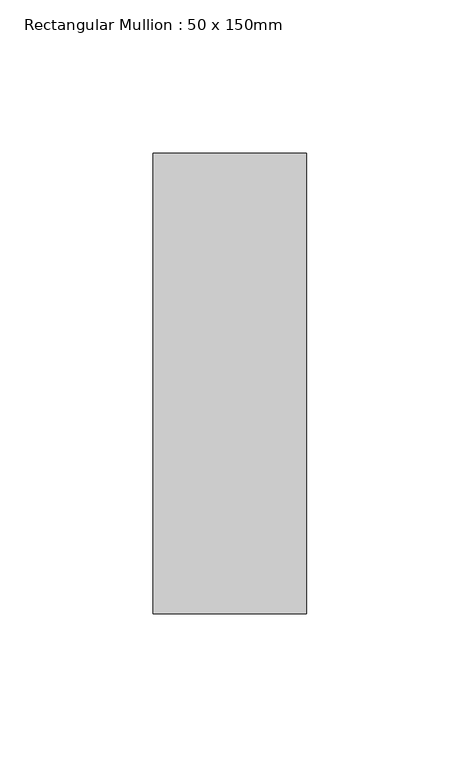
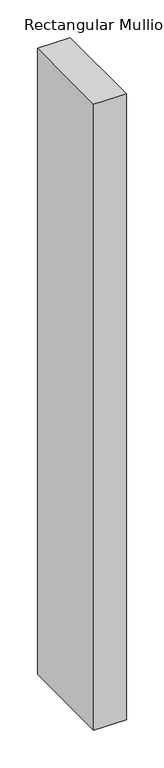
"""IFC4 building model written with IfcOpenShell, lengths in millimetres: member geometry, Rectangular Mullion : 50 x 150mm."""

import ifcopenshell
import ifcopenshell.guid

model = None  # the IFC model being written
_history = None  # IfcOwnerHistory: only IFC2X3 demands one
_inside = {}  # id of a spatial element -> (the spatial element, [elements in it])
_under = {}  # id of a project, library or spatial element -> (it, [spatial elements below it])
_declared = {}  # id of a project -> (the project, [libraries it declares])
_typed = {}  # id of a type object -> (the type object, [elements of that type])
_made_of = {}  # id of a material, layer set ... -> (it, [elements and type objects made of it])


def new_model(schema):
    """Start an empty IFC model of exactly this schema.

    Asked for "IFC4X3", IfcOpenShell would pick the latest addendum, in which some entities
    have other attributes; the version numbers below select the first issue.
    IFC2X3 requires an IfcOwnerHistory on every rooted entity: one is made here for all.
    """
    global model, _history
    if schema == "IFC4X3":
        model = ifcopenshell.file(schema_version=(4, 3, 0, 0))
    else:
        model = ifcopenshell.file(schema=schema)
    _inside.clear()
    _under.clear()
    _declared.clear()
    _typed.clear()
    _made_of.clear()
    _history = None
    if model.schema == "IFC2X3":
        org = make("IfcOrganization", Name="unknown")
        user = make(
            "IfcPersonAndOrganization",
            ThePerson=make("IfcPerson", FamilyName="unknown"),
            TheOrganization=org,
        )
        app = make(
            "IfcApplication",
            ApplicationDeveloper=org,
            Version="unknown",
            ApplicationFullName="unknown",
            ApplicationIdentifier="unknown",
        )
        _history = make(
            "IfcOwnerHistory",
            OwningUser=user,
            OwningApplication=app,
            ChangeAction="ADDED",
            CreationDate=0,
        )
    return model


def make(cls, **values):
    """One entity of the class cls with the attributes given. An attribute that is None is left unset."""
    return model.create_entity(
        cls, **{name: value for name, value in values.items() if value is not None}
    )


def rooted(cls, **values):
    """An entity with a GlobalId (a new one), such as an element, a storey or a relation."""
    return make(cls, GlobalId=ifcopenshell.guid.new(), OwnerHistory=_history, **values)


def si_unit(unit_type, name, prefix=None):
    """IfcSIUnit, for example si_unit("LENGTHUNIT", "METRE", prefix="MILLI")."""
    return make("IfcSIUnit", UnitType=unit_type, Prefix=prefix, Name=name)


def assignment(units):
    """IfcUnitAssignment: the units of a project."""
    return None if units is None else make("IfcUnitAssignment", Units=units)


def point(xyz):
    """IfcCartesianPoint."""
    return None if xyz is None else make("IfcCartesianPoint", Coordinates=xyz)


def direction(xyz):
    """IfcDirection."""
    return None if xyz is None else make("IfcDirection", DirectionRatios=xyz)


def frame(location, z_axis=None, x_axis=None):
    """IfcAxis2Placement3D, a coordinate frame: its origin and axes. An axis left out is left unset."""
    return make(
        "IfcAxis2Placement3D",
        Location=point(location),
        Axis=direction(z_axis),
        RefDirection=direction(x_axis),
    )


def origin():
    """The frame at (0, 0, 0) with its axes left unset."""
    return frame((0.0, 0.0, 0.0))


def place(relative_to, where):
    """IfcLocalPlacement: puts the frame where relative to a parent placement (None: the world)."""
    return make(
        "IfcLocalPlacement", PlacementRelTo=relative_to, RelativePlacement=where
    )


def context(
    kind, dimensions, precision=None, world=None, true_north=None, identifier=None
):
    """IfcGeometricRepresentationContext, for example the 3D "Model" context."""
    return make(
        "IfcGeometricRepresentationContext",
        ContextIdentifier=identifier,
        ContextType=kind,
        CoordinateSpaceDimension=dimensions,
        Precision=precision,
        WorldCoordinateSystem=world,
        TrueNorth=true_north,
    )


def project(units=None, contexts=None):
    """IfcProject with its units and contexts."""
    return rooted(
        "IfcProject",
        Name="project",
        RepresentationContexts=contexts,
        UnitsInContext=assignment(units),
    )


def spatial(cls, under=None, at=None, **own):
    """A site, building, storey or space (cls), placed at a placement, below another one or the project."""
    s = rooted(cls, ObjectPlacement=at, **own)
    if under is not None:
        _under.setdefault(under.id(), (under, []))[1].append(s)
    return s


def polyline(points):
    """IfcPolyline through the points."""
    return make("IfcPolyline", Points=[point(p) for p in points])


def outline(outer, holes=None, kind="AREA"):
    """IfcArbitraryClosedProfileDef: a profile drawn as a closed curve; with holes, ...WithVoids."""
    if holes is None:
        return make("IfcArbitraryClosedProfileDef", ProfileType=kind, OuterCurve=outer)
    return make(
        "IfcArbitraryProfileDefWithVoids",
        ProfileType=kind,
        OuterCurve=outer,
        InnerCurves=holes,
    )


def extrude(swept, where, along, depth):
    """IfcExtrudedAreaSolid: the profile swept, set in the frame where, extruded along a direction by depth."""
    return make(
        "IfcExtrudedAreaSolid",
        SweptArea=swept,
        Position=where,
        ExtrudedDirection=direction(along),
        Depth=depth,
    )


def shape(context_of_items, identifier, shape_type, items):
    """IfcShapeRepresentation: the items that make up one representation, for example the "Body"."""
    return make(
        "IfcShapeRepresentation",
        ContextOfItems=context_of_items,
        RepresentationIdentifier=identifier,
        RepresentationType=shape_type,
        Items=items,
    )


def source(mapping_origin, context_of_items, identifier, shape_type, items):
    """IfcRepresentationMap: a shape defined once, which mapped items show again and again."""
    return make(
        "IfcRepresentationMap",
        MappingOrigin=mapping_origin,
        MappedRepresentation=shape(context_of_items, identifier, shape_type, items),
    )


def transform(
    local_origin,
    x_axis=None,
    y_axis=None,
    z_axis=None,
    scale=None,
    scale2=None,
    scale3=None,
    uniform=True,
):
    """IfcCartesianTransformationOperator3D, or its non-uniform kind. x_axis, y_axis, z_axis: its Axis1, 2, 3."""
    if uniform:
        return make(
            "IfcCartesianTransformationOperator3D",
            Axis1=direction(x_axis),
            Axis2=direction(y_axis),
            LocalOrigin=point(local_origin),
            Scale=scale,
            Axis3=direction(z_axis),
        )
    return make(
        "IfcCartesianTransformationOperator3DnonUniform",
        Axis1=direction(x_axis),
        Axis2=direction(y_axis),
        LocalOrigin=point(local_origin),
        Scale=scale,
        Axis3=direction(z_axis),
        Scale2=scale2,
        Scale3=scale3,
    )


def mapped(mapping_source, mapping_target):
    """IfcMappedItem: shows the shape of a source again, moved by a transform."""
    return make(
        "IfcMappedItem", MappingSource=mapping_source, MappingTarget=mapping_target
    )


def made_of(thing, what):
    """Note that an element or type object is made of a material, layer set ...; save() writes the relation."""
    if what is not None:
        _made_of.setdefault(what.id(), (what, []))[1].append(thing)
    return thing


def element(
    cls,
    number,
    at=None,
    inside=None,
    cuts=None,
    type_object=None,
    material=None,
    context=None,
    identifier="Body",
    shape_type=None,
    held_by="IfcProductDefinitionShape",
    body=None,
    shapes=None,
    **own,
):
    """One element of the class cls, such as IfcWall. Its Tag is "e" and its number.

    at: its placement. inside: the storey or other place that contains it. cuts: it is an
    opening in that element (IfcRelVoidsElement). A single representation is given by context,
    identifier, shape_type and body (its items); several are given by shapes. held_by: the class
    of the entity that holds the representations. save() writes the other relations.
    """
    e = rooted(cls, Tag="e%d" % number, ObjectPlacement=at, **own)
    if body is not None:
        shapes = [shape(context, identifier, shape_type, body)]
    if shapes is not None:
        e.Representation = make(held_by, Representations=shapes)
    if inside is not None:
        _inside.setdefault(inside.id(), (inside, []))[1].append(e)
    if cuts is not None:
        rooted(
            "IfcRelVoidsElement", RelatingBuildingElement=cuts, RelatedOpeningElement=e
        )
    if type_object is not None:
        _typed.setdefault(type_object.id(), (type_object, []))[1].append(e)
    return made_of(e, material)


def aggregate(whole, parts):
    """IfcRelAggregates: a whole, such as a stair, and the parts it consists of."""
    return rooted("IfcRelAggregates", RelatingObject=whole, RelatedObjects=parts)


def save(model, path):
    """Write the relations noted so far, then the file.

    IfcRelAggregates (storeys below a building ...), IfcRelContainedInSpatialStructure (elements
    in a storey), IfcRelDefinesByType, IfcRelAssociatesMaterial and IfcRelDeclares: one each for
    every whole, place, type object, material and project.
    """
    for whole, parts in _under.values():
        aggregate(whole, parts)
    for where, things in _inside.values():
        rooted(
            "IfcRelContainedInSpatialStructure",
            RelatedElements=things,
            RelatingStructure=where,
        )
    for kind, things in _typed.values():
        rooted("IfcRelDefinesByType", RelatedObjects=things, RelatingType=kind)
    for what, things in _made_of.values():
        rooted("IfcRelAssociatesMaterial", RelatedObjects=things, RelatingMaterial=what)
    for by, libraries in _declared.values():
        rooted("IfcRelDeclares", RelatingContext=by, RelatedDefinitions=libraries)
    model.write(path)


def rectangular_mullion_50_x_150mm_e8271e18(model_context):
    return source(origin(), model_context, "Body", "SweptSolid", [
        extrude(outline(polyline([(25.0, 75.0), (25.0, -75.0), (-25.0, -75.0), (-25.0, 75.0), (25.0, 75.0)])), frame((0.0, 0.0, -1016.6666665), z_axis=(0.0, 0.0, 1.0), x_axis=(1.0, 0.0, 0.0)), (0.0, 0.0, 1.0), 1016.6666665),
    ])


if __name__ == "__main__":
    model = new_model("IFC4")
    model_context = context("Model", 3, world=origin())
    ifc_project = project(units=[si_unit("LENGTHUNIT", "METRE", prefix="MILLI")], contexts=[model_context])
    site = spatial("IfcSite", under=ifc_project)
    building = spatial("IfcBuilding", under=site)
    placement = place(None, origin())
    rectangular_mullion_50_x_150mm_shape = rectangular_mullion_50_x_150mm_e8271e18(model_context)
    element("IfcMember", 1, ObjectType="Rectangular Mullion : 50 x 150mm", at=placement, inside=building, context=model_context, shape_type="MappedRepresentation", body=[
        mapped(rectangular_mullion_50_x_150mm_shape, transform((0.0, 0.0, 0.0), x_axis=(1.0, 0.0, 0.0), y_axis=(0.0, 1.0, 0.0), z_axis=(0.0, 0.0, 1.0))),
    ])
    save(model, "model.ifc")
